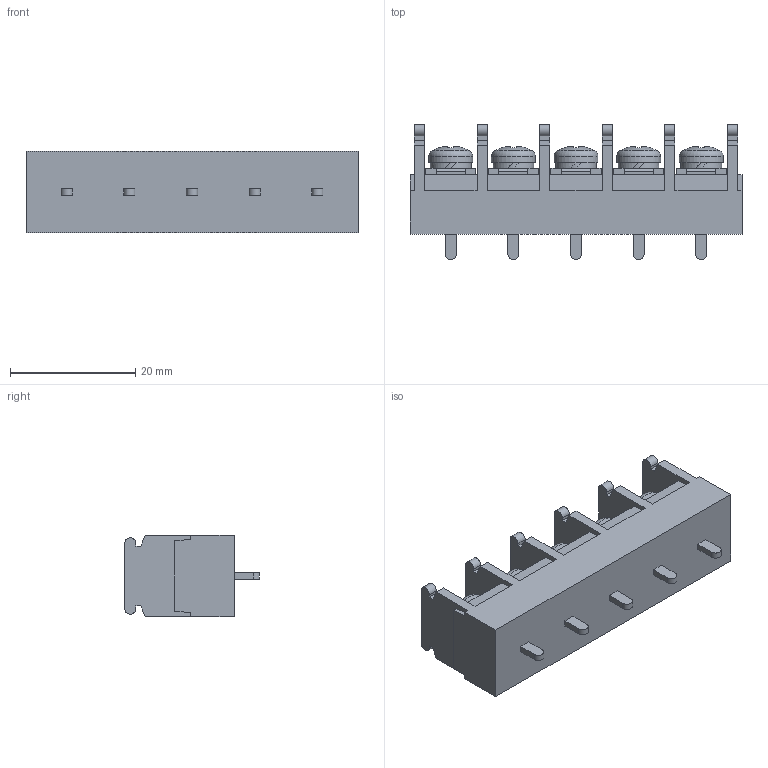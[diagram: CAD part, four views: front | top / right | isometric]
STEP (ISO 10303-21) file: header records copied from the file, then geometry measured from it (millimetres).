
FILE_DESCRIPTION(/* description */ ('Alibre Inc.'),/* implementation_level */ '2;1');
FILE_NAME(/* name */ 'export0',/* time_stamp */ '2015-10-17T18:05:51+09:00',/* author */ (''),/* organization */ (''),/* preprocessor_version */ 'ST-DEVELOPER v14',/* originating_system */ 'Alibre',/* authorisation */ '');
FILE_SCHEMA (('CONFIG_CONTROL_DESIGN'));
Length unit declared in the file: centimetre
Products named in the file (1): ID_1
Bounding box: 53 x 21.5 x 13 mm (x, y, z)
Volume: 8169.2 mm3; surface area: 4871 mm2
Topology: 1 solids, 17 shells, 719 faces, 1935 edges, 1285 vertices
Faces by surface type: plane 538, bspline 104, cylinder 42, cone 20, torus 10, sphere 5
Full cylindrical faces by diameter (mm): 4 x5, 6.5 x5, 7 x5
Entity records: 21806 total; most frequent: CARTESIAN_POINT 4981, ORIENTED_EDGE 3800, DIRECTION 2570, EDGE_CURVE 1900, VECTOR 1428, LINE 1428, VERTEX_POINT 1270, AXIS2_PLACEMENT_3D 835
